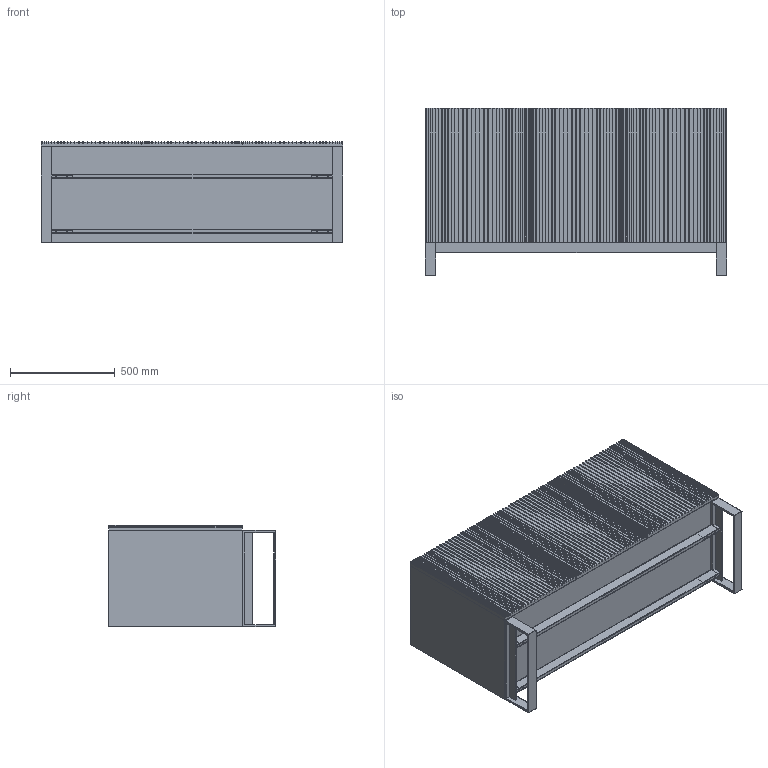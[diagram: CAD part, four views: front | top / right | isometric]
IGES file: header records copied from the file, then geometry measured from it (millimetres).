
Start section: SolidWorks IGES file using analytic representation for surfaces
Global section: file name: C:\Users\Matteo\Desktop\_Horm\_carlos\_collezione carlos\_IGS CARLOS\CARLOS cm 144x49x80H.IGS; native system: SolidWorks 2010; preprocessor: SolidWorks 2010; author: Matteo; date: 160224.161728; units: millimetre
Bounding box: 1440 x 800 x 484 mm (x, y, z)
Surface area: 8876815.3 mm2 (no closed solid volume)
Topology: 0 solids, 0 shells, 1340 faces, 10344 edges, 10336 vertices
Faces by surface type: bspline 1082, revolution 258
